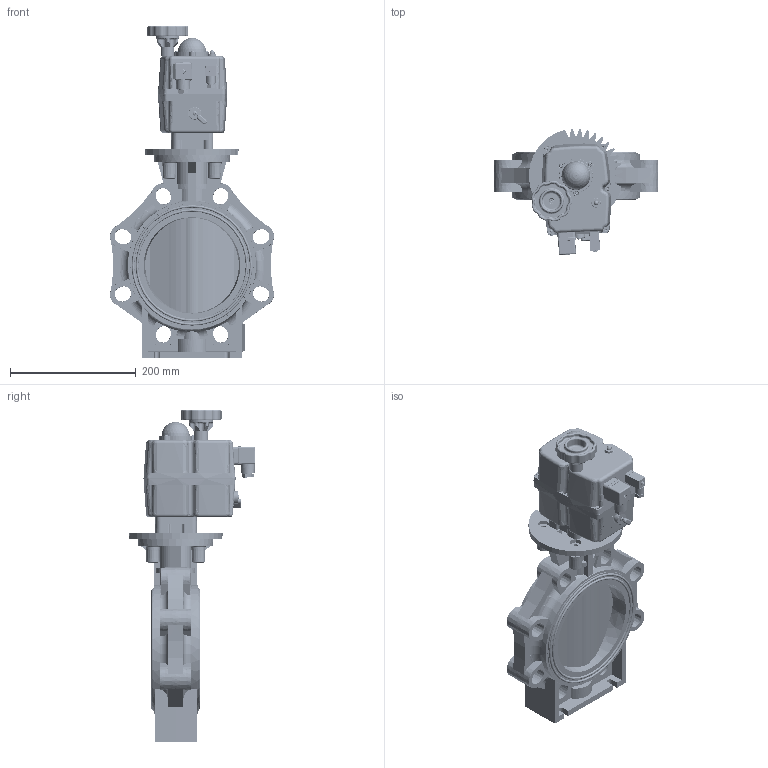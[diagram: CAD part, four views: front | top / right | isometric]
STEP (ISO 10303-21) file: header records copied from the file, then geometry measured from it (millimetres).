
FILE_DESCRIPTION((''),'2;1');
FILE_NAME('M:\z_3D-Files nach Lieferanten\TA-Produkte\angetriebene Armaturen\Register 9\PV15011F\Importierte Komponenten\PV15011F 125 S85\PV15011F 150 S85.stp','2025-03-25T16:21:11',('Gi'),(''),'Autodesk Inventor 2012','Autodesk Inventor 2012','');
FILE_SCHEMA(('CONFIG_CONTROL_DESIGN'));
Length unit declared in the file: millimetre
Products named in the file (1): PV15011F 125 S85
Bounding box: 260.84 x 200.58 x 528.5 mm (x, y, z)
Volume: 3062635.2 mm3; surface area: 589204.3 mm2
Topology: 35 solids, 42 shells, 3553 faces, 8944 edges, 5519 vertices
Faces by surface type: plane 1346, cylinder 897, cone 590, torus 415, bspline 197, sphere 108
Full cylindrical faces by diameter (mm): 1.5 x4, 2.5 x4, 3 x46, 3.5 x13, 3.75 x2, 3.8 x1, 3.9 x6, 4 x36, 4.25 x6, 4.5 x4, 5 x10, 5.7 x3, 6 x7, 6.4 x4, 6.5 x3, 7 x9, 7.5 x7, 8 x21, 8.05 x1, 9 x2, 10 x8, 10.2 x2, 10.5 x1, 10.75 x1, 11 x1, 11.5 x1, 12 x4, 12.3 x1, 12.75 x1, 12.8 x1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
Entity records: 140994 total; most frequent: CARTESIAN_POINT 56782, DIRECTION 17485, ORIENTED_EDGE 15630, EDGE_CURVE 7815, AXIS2_PLACEMENT_3D 7027, VERTEX_POINT 5279, EDGE_LOOP 4633, FACE_OUTER_BOUND 3552
